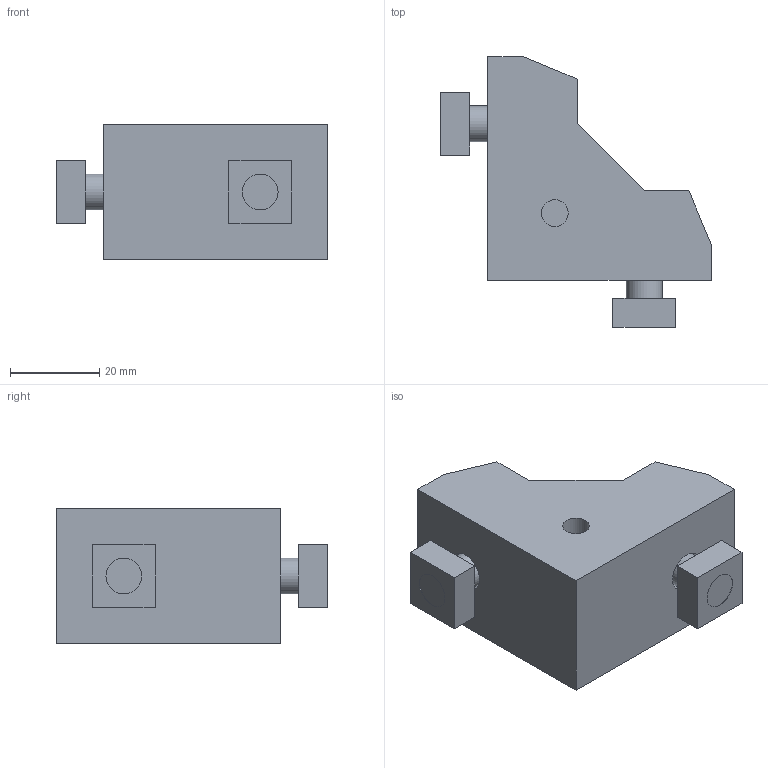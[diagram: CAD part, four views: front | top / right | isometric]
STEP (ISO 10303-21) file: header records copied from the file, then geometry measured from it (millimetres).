
FILE_DESCRIPTION((''),'2;1');
FILE_NAME('C:\Documents and Settings\AMS8\デスクトップ\2013from西村作業用\既存3D\M8ブラケット差分\ABLD-40-8-T\ABLD-40-8-T.stp','2013-08-07T17:53:34',('AMS8'),(''),'Autodesk Inventor 2008','Autodesk Inventor 2008','');
FILE_SCHEMA(('AUTOMOTIVE_DESIGN { 1 0 10303 214 1 1 1 1 }'));
Length unit declared in the file: millimetre
Products named in the file (6): ABLD-40-8-T; ABLD-40-8-T1; ABLD-40-8-T2; ABLD-40-8-T3; ABLD-40-8-T4; ABLD-40-8-T5
Assembly tree (5 placements, depth 2):
  ABLD-40-8-T
    ABLD-40-8-T1
    ABLD-40-8-T2
    ABLD-40-8-T3
    ABLD-40-8-T4
    ABLD-40-8-T5
Bounding box: 60.5 x 60.5 x 30 mm (x, y, z)
Volume: 33848.5 mm3; surface area: 16190 mm2
Topology: 5 solids, 5 shells, 65 faces, 147 edges, 98 vertices
Faces by surface type: plane 54, cylinder 11
Full cylindrical faces by diameter (mm): 6 x1, 8 x4, 8.4 x2, 9 x2, 18 x2
Entity records: 1940 total; most frequent: CARTESIAN_POINT 310, DIRECTION 310, ORIENTED_EDGE 272, EDGE_CURVE 136, VECTOR 114, LINE 114, AXIS2_PLACEMENT_3D 98, VERTEX_POINT 98
